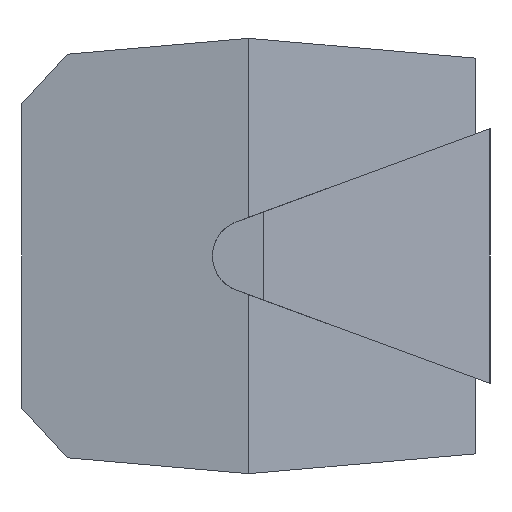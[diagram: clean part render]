
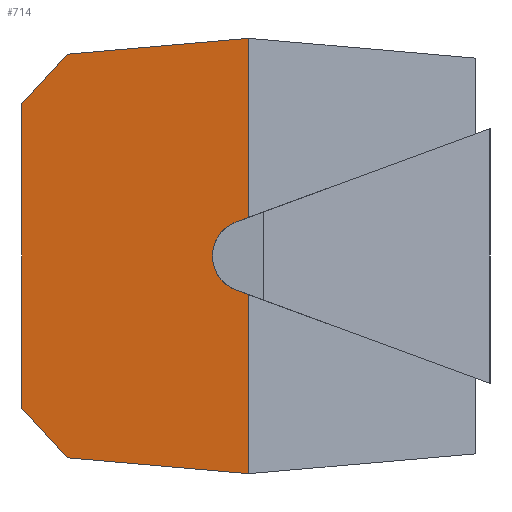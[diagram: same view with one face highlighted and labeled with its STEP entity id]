
A CAD part, left-side view. The second image highlights one B-rep face of the part: STEP entity #714.
In plain terms, the highlighted planar face has unit normal (-0.993, 0.117, 0).
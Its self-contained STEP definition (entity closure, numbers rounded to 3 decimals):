
#13=ELLIPSE($,#754,0.403,0.4);
#62=FACE_OUTER_BOUND($,#98,.T.);
#98=EDGE_LOOP($,(#609,#610,#611,#612,#613,#614,#615,#616,#617,#618));
#144=LINE($,#1024,#238);
#156=LINE($,#1048,#250);
#166=LINE($,#1074,#260);
#187=LINE($,#1116,#281);
#189=LINE($,#1120,#283);
#191=LINE($,#1124,#285);
#192=LINE($,#1126,#286);
#193=LINE($,#1127,#287);
#194=LINE($,#1128,#288);
#238=VECTOR($,#825,0.148);
#250=VECTOR($,#843,0.148);
#260=VECTOR($,#873,1.974);
#281=VECTOR($,#912,0.74);
#283=VECTOR($,#916,3.363);
#285=VECTOR($,#920,1.974);
#286=VECTOR($,#921,2.023);
#287=VECTOR($,#922,0.74);
#288=VECTOR($,#923,2.023);
#325=VERTEX_POINT($,#1021);
#326=VERTEX_POINT($,#1023);
#334=VERTEX_POINT($,#1045);
#335=VERTEX_POINT($,#1047);
#341=VERTEX_POINT($,#1073);
#352=VERTEX_POINT($,#1113);
#353=VERTEX_POINT($,#1115);
#354=VERTEX_POINT($,#1119);
#355=VERTEX_POINT($,#1123);
#356=VERTEX_POINT($,#1125);
#396=EDGE_CURVE($,#326,#325,#144,.T.);
#408=EDGE_CURVE($,#335,#334,#156,.T.);
#421=EDGE_CURVE($,#335,#341,#166,.T.);
#441=EDGE_CURVE($,#334,#326,#13,.T.);
#443=EDGE_CURVE($,#352,#353,#187,.T.);
#445=EDGE_CURVE($,#354,#353,#189,.T.);
#447=EDGE_CURVE($,#355,#325,#191,.T.);
#448=EDGE_CURVE($,#356,#355,#192,.T.);
#449=EDGE_CURVE($,#354,#356,#193,.T.);
#450=EDGE_CURVE($,#341,#352,#194,.T.);
#609=ORIENTED_EDGE($,*,*,#396,.T.);
#610=ORIENTED_EDGE($,*,*,#447,.F.);
#611=ORIENTED_EDGE($,*,*,#448,.F.);
#612=ORIENTED_EDGE($,*,*,#449,.F.);
#613=ORIENTED_EDGE($,*,*,#445,.T.);
#614=ORIENTED_EDGE($,*,*,#443,.F.);
#615=ORIENTED_EDGE($,*,*,#450,.F.);
#616=ORIENTED_EDGE($,*,*,#421,.F.);
#617=ORIENTED_EDGE($,*,*,#408,.T.);
#618=ORIENTED_EDGE($,*,*,#441,.T.);
#678=PLANE($,#757);
#714=ADVANCED_FACE($,(#62),#678,.T.);
#754=AXIS2_PLACEMENT_3D($,#1111,#907,#908);
#757=AXIS2_PLACEMENT_3D($,#1122,#918,#919);
#825=DIRECTION($,(-0.11,-0.933,0.343));
#843=DIRECTION($,(0.11,0.933,0.343));
#873=DIRECTION($,(0.,0.,-1.));
#907=DIRECTION('center_axis',(0.993,-0.117,0.));
#908=DIRECTION('ref_axis',(0.117,0.993,0.));
#912=DIRECTION($,(0.079,0.673,0.735));
#916=DIRECTION($,(0.,0.,-1.));
#918=DIRECTION('center_axis',(-0.993,0.117,0.));
#919=DIRECTION('ref_axis',(0.,0.,1.));
#920=DIRECTION($,(0.,0.,-1.));
#921=DIRECTION($,(-0.116,-0.989,0.087));
#922=DIRECTION($,(-0.079,-0.673,0.735));
#923=DIRECTION($,(0.116,0.989,0.087));
#1021=CARTESIAN_POINT('',(-5.65,0.,0.426));
#1023=CARTESIAN_POINT('',(-5.634,0.138,0.375));
#1024=CARTESIAN_POINT($,(-5.797,-1.246,0.884));
#1045=CARTESIAN_POINT('',(-5.634,0.138,-0.375));
#1047=CARTESIAN_POINT('',(-5.65,0.,-0.426));
#1048=CARTESIAN_POINT($,(-5.634,0.136,-0.376));
#1073=CARTESIAN_POINT('',(-5.65,0.,-2.4));
#1074=CARTESIAN_POINT($,(-5.65,0.,0.));
#1111=CARTESIAN_POINT('Origin',(-5.65,0.,0.));
#1113=CARTESIAN_POINT('',(-5.414,2.002,-2.225));
#1115=CARTESIAN_POINT('',(-5.356,2.5,-1.681));
#1116=CARTESIAN_POINT($,(-5.372,2.36,-1.834));
#1119=CARTESIAN_POINT('',(-5.356,2.5,1.681));
#1120=CARTESIAN_POINT($,(-5.356,2.5,0.));
#1122=CARTESIAN_POINT('Origin',(-5.65,0.,0.));
#1123=CARTESIAN_POINT('',(-5.65,0.,2.4));
#1124=CARTESIAN_POINT($,(-5.65,0.,0.));
#1125=CARTESIAN_POINT('',(-5.414,2.002,2.225));
#1126=CARTESIAN_POINT($,(-5.527,1.045,2.309));
#1127=CARTESIAN_POINT($,(-5.372,2.36,1.834));
#1128=CARTESIAN_POINT($,(-5.527,1.045,-2.309));
